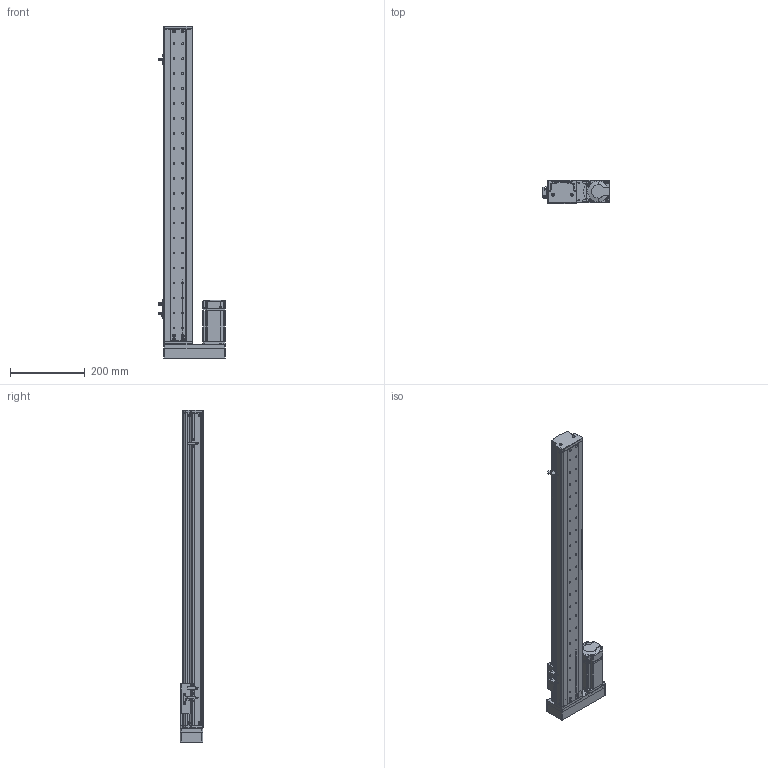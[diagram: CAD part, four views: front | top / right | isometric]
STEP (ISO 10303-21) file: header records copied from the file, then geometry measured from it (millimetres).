
FILE_DESCRIPTION (( 'STEP AP214' ), '1' );
FILE_NAME ('KSD75S-S680-ML-CM.STEP', '2019-10-18T07:04:33', ( '微软用户' ), ( '微软中国' ), 'SwSTEP 2.0', 'SolidWorks 2014', '' );
FILE_SCHEMA (( 'AUTOMOTIVE_DESIGN' ));
Length unit declared in the file: millimetre
Products named in the file (13): 680俴最; KSD75S-S680-ML-CM; MHMD042G1CA_2_03; 75宽模组保护罩左右折; 75宽马达安装板连板左右折丝杆; 覜茼え100遵圉猾敕; U倰嫖萇EEㄜSX672; 綴傷啣 ; ヶ傷啣; 75裔啣-680俴最; 75遵耀郪耜啣-680俴最; 75遵賑雄釱; MGW15H賑寢680俴最 
Assembly tree (15 placements, depth 3):
  KSD75S-S680-ML-CM
    MGW15H賑寢680俴最 
      680俴最
    75遵賑雄釱
    75遵耀郪耜啣-680俴最  x2
    75裔啣-680俴最
    ヶ傷啣
    綴傷啣 
    U倰嫖萇EEㄜSX672  x3
    覜茼え100遵圉猾敕
    75宽马达安装板连板左右折丝杆
    75宽模组保护罩左右折
    MHMD042G1CA_2_03
Bounding box: 178.7 x 63 x 887.5 mm (x, y, z)
Volume: 1095604.6 mm3; surface area: 690847.8 mm2
Topology: 13 solids, 14 shells, 1533 faces, 4306 edges, 2813 vertices
Faces by surface type: cylinder 747, plane 639, cone 129, bspline 18
Entity records: 49074 total; most frequent: CARTESIAN_POINT 9268, DIRECTION 7424, ORIENTED_EDGE 6892, EDGE_CURVE 3517, AXIS2_PLACEMENT_3D 2748, VERTEX_POINT 2331, VECTOR 1928, LINE 1928
